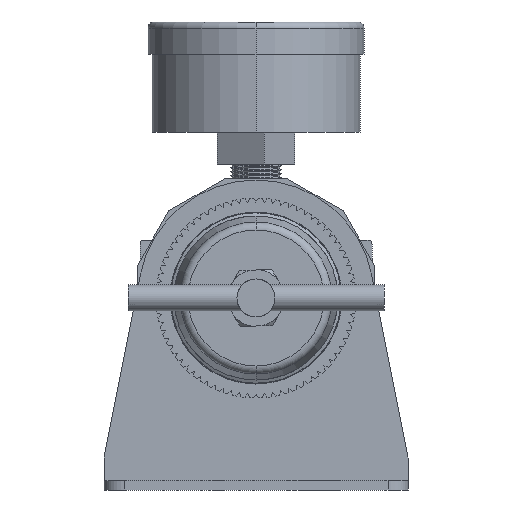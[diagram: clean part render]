
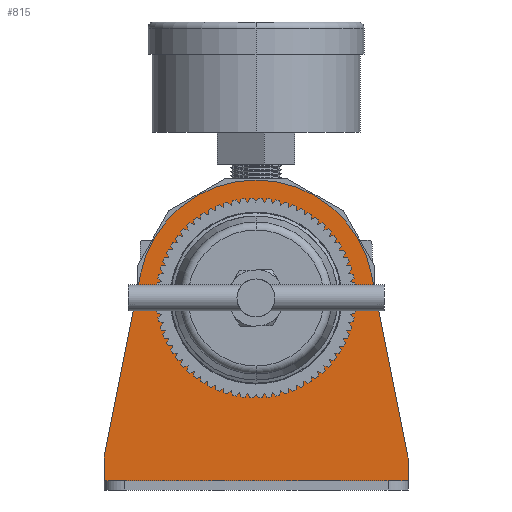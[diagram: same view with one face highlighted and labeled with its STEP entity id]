
A CAD part, front view. The second image highlights one B-rep face of the part: STEP entity #815.
In plain terms, the highlighted planar face has unit normal (0, -1, 0) as drawn and (0, 1, 0) by its records, which use the part's own axes.
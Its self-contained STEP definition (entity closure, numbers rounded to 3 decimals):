
#39 = LINE ( 'NONE', #16907, #28616 ) ;
#436 = DIRECTION ( 'NONE',  ( 1., 0., 0. ) ) ;
#449 = CARTESIAN_POINT ( 'NONE',  ( 0., 2.3, -24. ) ) ;
#588 = FACE_OUTER_BOUND ( 'NONE', #8383, .T. ) ;
#815 = ADVANCED_FACE ( 'NONE', ( #31268, #588 ), #11847, .T. ) ;
#1102 = VECTOR ( 'NONE', #436, 1000. ) ;
#1224 = CIRCLE ( 'NONE', #9685, 24. ) ;
#1478 = VECTOR ( 'NONE', #25625, 1000. ) ;
#1606 = EDGE_CURVE ( 'NONE', #28626, #19873, #22872, .T. ) ;
#2192 = ORIENTED_EDGE ( 'NONE', *, *, #24940, .T. ) ;
#2418 = VECTOR ( 'NONE', #14891, 1000. ) ;
#2445 = CARTESIAN_POINT ( 'NONE',  ( -38., 2.3, -45.7 ) ) ;
#3169 = DIRECTION ( 'NONE',  ( 0., 0., 1. ) ) ;
#3218 = EDGE_CURVE ( 'NONE', #28679, #24913, #20001, .T. ) ;
#3673 = AXIS2_PLACEMENT_3D ( 'NONE', #15211, #25445, #12131 ) ;
#4117 = VERTEX_POINT ( 'NONE', #2445 ) ;
#6566 = CARTESIAN_POINT ( 'NONE',  ( 0., 2.3, 0. ) ) ;
#6626 = VERTEX_POINT ( 'NONE', #12700 ) ;
#6633 = EDGE_CURVE ( 'NONE', #4117, #6853, #10649, .T. ) ;
#6687 = ORIENTED_EDGE ( 'NONE', *, *, #3218, .F. ) ;
#6853 = VERTEX_POINT ( 'NONE', #9481 ) ;
#7138 = CARTESIAN_POINT ( 'NONE',  ( -28.937, 2.3, 5.734 ) ) ;
#7806 = ORIENTED_EDGE ( 'NONE', *, *, #15941, .T. ) ;
#8383 = EDGE_LOOP ( 'NONE', ( #21907, #7806, #11347, #12312, #18347, #2192 ) ) ;
#9090 = DIRECTION ( 'NONE',  ( 0.194, 0., -0.981 ) ) ;
#9176 = ORIENTED_EDGE ( 'NONE', *, *, #27410, .F. ) ;
#9481 = CARTESIAN_POINT ( 'NONE',  ( 38., 2.3, -45.7 ) ) ;
#9685 = AXIS2_PLACEMENT_3D ( 'NONE', #6566, #11172, #11236 ) ;
#9819 = AXIS2_PLACEMENT_3D ( 'NONE', #30261, #21539, #3169 ) ;
#10649 = LINE ( 'NONE', #22940, #1102 ) ;
#11134 = DIRECTION ( 'NONE',  ( 0., 1., 0. ) ) ;
#11172 = DIRECTION ( 'NONE',  ( 0., 1., 0. ) ) ;
#11236 = DIRECTION ( 'NONE',  ( 0., 0., 1. ) ) ;
#11347 = ORIENTED_EDGE ( 'NONE', *, *, #15729, .T. ) ;
#11847 = PLANE ( 'NONE',  #9819 ) ;
#12046 = VECTOR ( 'NONE', #9090, 1000. ) ;
#12131 = DIRECTION ( 'NONE',  ( 0., 0., 1. ) ) ;
#12312 = ORIENTED_EDGE ( 'NONE', *, *, #19103, .T. ) ;
#12700 = CARTESIAN_POINT ( 'NONE',  ( -38., 2.3, -40. ) ) ;
#12810 = LINE ( 'NONE', #16929, #1478 ) ;
#14332 = AXIS2_PLACEMENT_3D ( 'NONE', #18803, #11134, #15239 ) ;
#14891 = DIRECTION ( 'NONE',  ( 0., 0., 1. ) ) ;
#15211 = CARTESIAN_POINT ( 'NONE',  ( 0., 2.3, 0. ) ) ;
#15239 = DIRECTION ( 'NONE',  ( 0., 0., 1. ) ) ;
#15729 = EDGE_CURVE ( 'NONE', #6626, #23113, #39, .T. ) ;
#15941 = EDGE_CURVE ( 'NONE', #4117, #6626, #26152, .T. ) ;
#16907 = CARTESIAN_POINT ( 'NONE',  ( -38., 2.3, -40. ) ) ;
#16929 = CARTESIAN_POINT ( 'NONE',  ( 38., 2.3, -48. ) ) ;
#17056 = CARTESIAN_POINT ( 'NONE',  ( 38., 2.3, -40. ) ) ;
#18032 = EDGE_LOOP ( 'NONE', ( #6687, #9176 ) ) ;
#18347 = ORIENTED_EDGE ( 'NONE', *, *, #1606, .T. ) ;
#18803 = CARTESIAN_POINT ( 'NONE',  ( 0., 2.3, 0. ) ) ;
#19103 = EDGE_CURVE ( 'NONE', #23113, #28626, #24588, .T. ) ;
#19548 = CARTESIAN_POINT ( 'NONE',  ( 0., 2.3, 24. ) ) ;
#19873 = VERTEX_POINT ( 'NONE', #17056 ) ;
#20001 = CIRCLE ( 'NONE', #14332, 24. ) ;
#20820 = CARTESIAN_POINT ( 'NONE',  ( 38., 2.3, -40. ) ) ;
#21539 = DIRECTION ( 'NONE',  ( 0., 1., 0. ) ) ;
#21907 = ORIENTED_EDGE ( 'NONE', *, *, #6633, .F. ) ;
#21985 = DIRECTION ( 'NONE',  ( 0.194, 0., 0.981 ) ) ;
#22872 = LINE ( 'NONE', #20820, #12046 ) ;
#22940 = CARTESIAN_POINT ( 'NONE',  ( 0., 2.3, -45.7 ) ) ;
#23113 = VERTEX_POINT ( 'NONE', #7138 ) ;
#24588 = CIRCLE ( 'NONE', #3673, 29.5 ) ;
#24913 = VERTEX_POINT ( 'NONE', #449 ) ;
#24940 = EDGE_CURVE ( 'NONE', #19873, #6853, #12810, .T. ) ;
#25445 = DIRECTION ( 'NONE',  ( 0., 1., 0. ) ) ;
#25625 = DIRECTION ( 'NONE',  ( 0., 0., -1. ) ) ;
#26152 = LINE ( 'NONE', #27162, #2418 ) ;
#27162 = CARTESIAN_POINT ( 'NONE',  ( -38., 2.3, -48. ) ) ;
#27211 = CARTESIAN_POINT ( 'NONE',  ( 28.937, 2.3, 5.734 ) ) ;
#27410 = EDGE_CURVE ( 'NONE', #24913, #28679, #1224, .T. ) ;
#28616 = VECTOR ( 'NONE', #21985, 1000. ) ;
#28626 = VERTEX_POINT ( 'NONE', #27211 ) ;
#28679 = VERTEX_POINT ( 'NONE', #19548 ) ;
#30261 = CARTESIAN_POINT ( 'NONE',  ( 0., 2.3, 0. ) ) ;
#31268 = FACE_BOUND ( 'NONE', #18032, .T. ) ;
